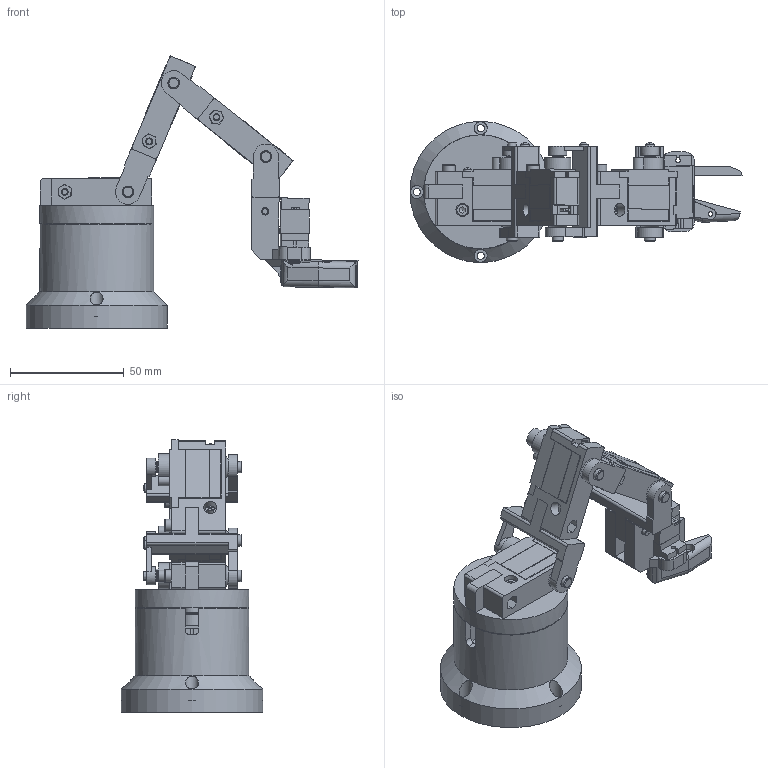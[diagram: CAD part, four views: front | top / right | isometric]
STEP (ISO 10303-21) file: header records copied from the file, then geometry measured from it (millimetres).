
FILE_DESCRIPTION(/* description */ (''),/* implementation_level */ '2;1');
FILE_NAME(/* name */ 'Assieme_robot_mg90s_orizzontale2.stp',/* time_stamp */ '2026-03-25T13:11:28+01:00',/* author */ ('Ryzen5700u'),/* organization */ (''),/* preprocessor_version */ 'ST-DEVELOPER v20',/* originating_system */ 'Autodesk Inventor 2025',/* authorisation */ '');
FILE_SCHEMA (('AUTOMOTIVE_DESIGN { 1 0 10303 214 3 1 1 }'));
Length unit declared in the file: millimetre
Products named in the file (17): Assieme_robot_mg90s_orizzontale2; Assieme_mg90s_perno; Assieme_mg90s_perno_1; base_ruota; Assieme_mg90s_perno_2; blocco_mg90s; braccio_mobile_mg90s; base; AS 1420 - 1973 - M3 x 20; AS 1474 - M3; Vite a testa cilindrica incassata esalobulare ISO 14580 - M2x8-4.8; ISO 7049 - ST2,2 x 6,5 - C - H; Assieme_pinza_eco_orizzontale; MG90_ldb; MG90S ARM; blocco_pinza_eco_orizzontale; dito_pinza_mg90s
Assembly tree (37 placements, depth 3):
  Assieme_robot_mg90s_orizzontale2
    Assieme_mg90s_perno
      MG90_ldb
      blocco_mg90s
      MG90S ARM
      braccio_mobile_mg90s
    Assieme_mg90s_perno_1
      MG90_ldb
      blocco_mg90s
      MG90S ARM
      braccio_mobile_mg90s
    base_ruota
    MG90_ldb
    MG90S ARM
    Assieme_mg90s_perno_2
      MG90_ldb
      blocco_mg90s
      MG90S ARM
      braccio_mobile_mg90s
    base
    AS 1420 - 1973 - M3 x 20  x5
    AS 1474 - M3  x3
    ISO 7049 - ST2,2 x 6,5 - C - H  x4
    Vite a testa cilindrica incassata esalobulare ISO 14580 - M2x8-4.8
    Assieme_pinza_eco_orizzontale
      MG90_ldb
      MG90S ARM
      blocco_pinza_eco_orizzontale
      dito_pinza_mg90s
Bounding box: 145.66 x 62 x 119.46 mm (x, y, z)
Volume: 148749.9 mm3; surface area: 68981 mm2
Topology: 33 solids, 33 shells, 2493 faces, 7089 edges, 4710 vertices
Faces by surface type: plane 1744, cylinder 644, cone 69, torus 30, sphere 5, bspline 1
Full cylindrical faces by diameter (mm): 1.167 x15, 2 x18, 2.2 x10, 2.4 x3, 2.459 x3, 2.5 x5, 2.7 x3, 3 x5, 3.2 x20, 4.4 x1, 5 x5, 5.1 x3, 5.5 x5, 5.7 x7, 6 x1, 50 x2, 62 x1
Entity records: 23845 total; most frequent: CARTESIAN_POINT 4538, ORIENTED_EDGE 3888, DIRECTION 3860, EDGE_CURVE 1944, LINE 1416, VECTOR 1416, VERTEX_POINT 1291, AXIS2_PLACEMENT_3D 1222
